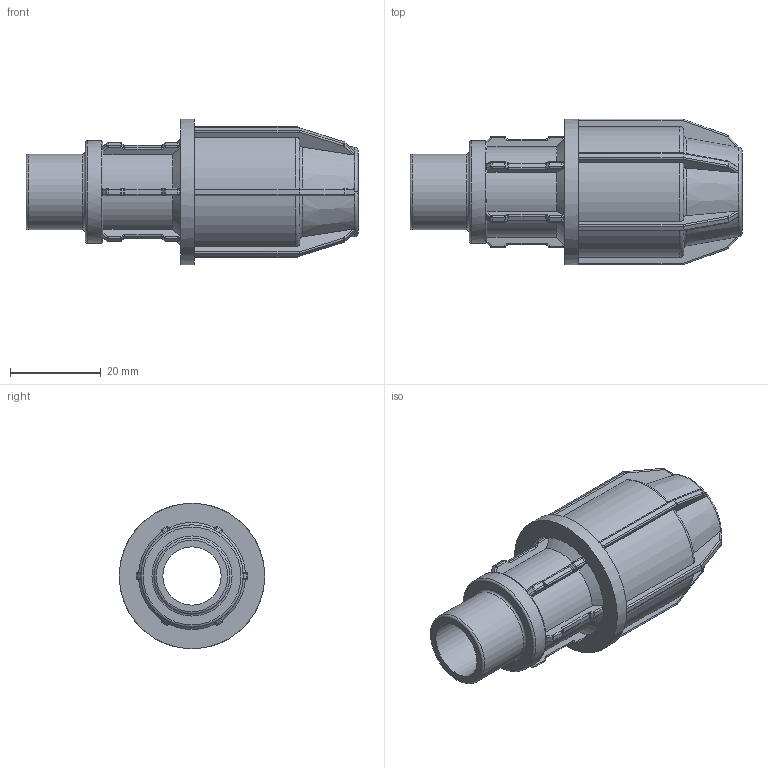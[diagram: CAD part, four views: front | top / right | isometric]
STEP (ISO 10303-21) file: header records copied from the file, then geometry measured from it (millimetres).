
FILE_DESCRIPTION(/* description */ ('PLASSON L.14 MALE ADAPTOR (SILVER) 16-3/8'''''),/* implementation_level */ '2;1');
FILE_NAME(/* name */ 'C:\Dropbox\KIMPROJECTS-Inventor\99-16-3568-Processing\Silver+MF ISRAEL\140200\140200016003.ipt.stp',/* time_stamp */ '2018-04-09T13:02:26+03:00',/* author */ ('KIM'),/* organization */ (''),/* preprocessor_version */ 'ST-DEVELOPER v15.6',/* originating_system */ 'Autodesk Inventor 2015',/* authorisation */ '');
FILE_SCHEMA (('AUTOMOTIVE_DESIGN { 1 0 10303 214 3 1 1 }'));
Length unit declared in the file: millimetre
Products named in the file (1): 140200016003
Bounding box: 73 x 32 x 32 mm (x, y, z)
Volume: 19313.4 mm3; surface area: 11191.3 mm2
Topology: 1 solids, 1 shells, 465 faces, 1142 edges, 676 vertices
Faces by surface type: cylinder 186, plane 158, bspline 72, torus 41, cone 8
Full cylindrical faces by diameter (mm): 12.8 x1, 16 x2, 16.662 x1, 22.494 x1, 32 x1
Entity records: 14272 total; most frequent: CARTESIAN_POINT 3665, DIRECTION 2302, ORIENTED_EDGE 2218, EDGE_CURVE 1109, AXIS2_PLACEMENT_3D 926, VERTEX_POINT 665, CIRCLE 503, EDGE_LOOP 484
